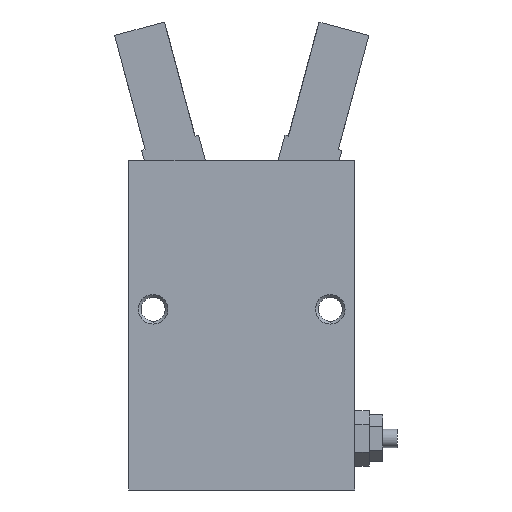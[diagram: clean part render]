
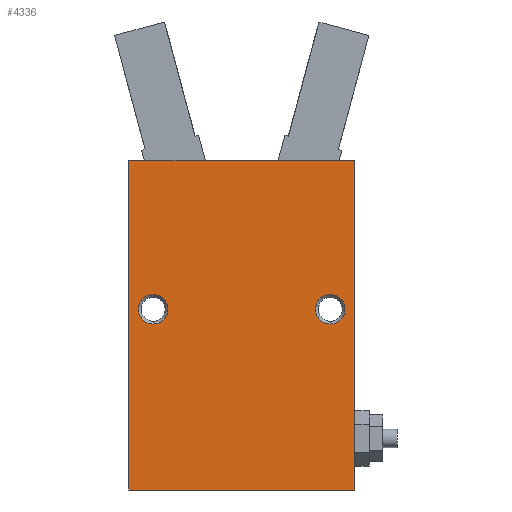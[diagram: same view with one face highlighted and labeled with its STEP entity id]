
A CAD part, front view. The second image highlights one B-rep face of the part: STEP entity #4336.
In plain terms, the highlighted planar face has unit normal (0, -1, 0).
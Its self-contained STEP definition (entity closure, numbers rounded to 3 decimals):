
#158 = CARTESIAN_POINT ( 'NONE',  ( -12., -11.8, 24.5 ) ) ;
#455 = VECTOR ( 'NONE', #5431, 1000. ) ;
#537 = AXIS2_PLACEMENT_3D ( 'NONE', #2629, #5780, #3086 ) ;
#605 = DIRECTION ( 'NONE',  ( 0., 0., -1. ) ) ;
#735 = CARTESIAN_POINT ( 'NONE',  ( 15.3, -11.8, 44.6 ) ) ;
#754 = VECTOR ( 'NONE', #5672, 1000. ) ;
#757 = CARTESIAN_POINT ( 'NONE',  ( 15.3, -11.8, 0. ) ) ;
#800 = CARTESIAN_POINT ( 'NONE',  ( -15.3, -11.8, 0. ) ) ;
#858 = EDGE_CURVE ( 'NONE', #3187, #4919, #5277, .T. ) ;
#878 = CARTESIAN_POINT ( 'NONE',  ( -15.3, -11.8, 0. ) ) ;
#888 = VERTEX_POINT ( 'NONE', #735 ) ;
#928 = CARTESIAN_POINT ( 'NONE',  ( 0., -11.8, 0. ) ) ;
#988 = EDGE_LOOP ( 'NONE', ( #3624, #2299 ) ) ;
#1060 = VERTEX_POINT ( 'NONE', #4927 ) ;
#1264 = FACE_OUTER_BOUND ( 'NONE', #4249, .T. ) ;
#1292 = AXIS2_PLACEMENT_3D ( 'NONE', #4297, #4514, #3351 ) ;
#1318 = DIRECTION ( 'NONE',  ( 0., 0., 1. ) ) ;
#1370 = EDGE_CURVE ( 'NONE', #4919, #2563, #5271, .T. ) ;
#1649 = ORIENTED_EDGE ( 'NONE', *, *, #858, .F. ) ;
#1743 = CARTESIAN_POINT ( 'NONE',  ( 12., -11.8, 24.5 ) ) ;
#1850 = CARTESIAN_POINT ( 'NONE',  ( -15.3, -11.8, 0. ) ) ;
#1851 = ORIENTED_EDGE ( 'NONE', *, *, #4402, .T. ) ;
#1861 = EDGE_CURVE ( 'NONE', #3372, #3709, #2708, .T. ) ;
#1971 = AXIS2_PLACEMENT_3D ( 'NONE', #1743, #4918, #2197 ) ;
#2197 = DIRECTION ( 'NONE',  ( 0., 0., -1. ) ) ;
#2299 = ORIENTED_EDGE ( 'NONE', *, *, #2948, .T. ) ;
#2310 = DIRECTION ( 'NONE',  ( 0., -1., 0. ) ) ;
#2322 = FACE_BOUND ( 'NONE', #2555, .T. ) ;
#2483 = EDGE_CURVE ( 'NONE', #1060, #2550, #3822, .T. ) ;
#2550 = VERTEX_POINT ( 'NONE', #4497 ) ;
#2555 = EDGE_LOOP ( 'NONE', ( #3208, #3393 ) ) ;
#2563 = VERTEX_POINT ( 'NONE', #5400 ) ;
#2629 = CARTESIAN_POINT ( 'NONE',  ( 12., -11.8, 24.5 ) ) ;
#2708 = CIRCLE ( 'NONE', #1292, 2. ) ;
#2794 = CARTESIAN_POINT ( 'NONE',  ( 0., -11.8, 44.6 ) ) ;
#2877 = VECTOR ( 'NONE', #1318, 1000. ) ;
#2948 = EDGE_CURVE ( 'NONE', #2550, #1060, #3185, .T. ) ;
#3086 = DIRECTION ( 'NONE',  ( 0., 0., -1. ) ) ;
#3185 = CIRCLE ( 'NONE', #537, 2. ) ;
#3187 = VERTEX_POINT ( 'NONE', #757 ) ;
#3208 = ORIENTED_EDGE ( 'NONE', *, *, #5187, .T. ) ;
#3230 = LINE ( 'NONE', #2794, #4289 ) ;
#3303 = DIRECTION ( 'NONE',  ( 0., 1., 0. ) ) ;
#3329 = ORIENTED_EDGE ( 'NONE', *, *, #1370, .F. ) ;
#3351 = DIRECTION ( 'NONE',  ( 0., 0., -1. ) ) ;
#3372 = VERTEX_POINT ( 'NONE', #3564 ) ;
#3393 = ORIENTED_EDGE ( 'NONE', *, *, #1861, .T. ) ;
#3515 = CARTESIAN_POINT ( 'NONE',  ( -12., -11.8, 22.5 ) ) ;
#3564 = CARTESIAN_POINT ( 'NONE',  ( -12., -11.8, 26.5 ) ) ;
#3624 = ORIENTED_EDGE ( 'NONE', *, *, #2483, .T. ) ;
#3666 = FACE_BOUND ( 'NONE', #988, .T. ) ;
#3709 = VERTEX_POINT ( 'NONE', #3515 ) ;
#3822 = CIRCLE ( 'NONE', #1971, 2. ) ;
#3933 = LINE ( 'NONE', #4000, #2877 ) ;
#4000 = CARTESIAN_POINT ( 'NONE',  ( 15.3, -11.8, 0. ) ) ;
#4079 = CIRCLE ( 'NONE', #4111, 2. ) ;
#4111 = AXIS2_PLACEMENT_3D ( 'NONE', #158, #3303, #605 ) ;
#4210 = EDGE_CURVE ( 'NONE', #3187, #888, #3933, .T. ) ;
#4249 = EDGE_LOOP ( 'NONE', ( #1649, #4627, #1851, #3329 ) ) ;
#4289 = VECTOR ( 'NONE', #5504, 1000. ) ;
#4297 = CARTESIAN_POINT ( 'NONE',  ( -12., -11.8, 24.5 ) ) ;
#4336 = ADVANCED_FACE ( 'NONE', ( #2322, #3666, #1264 ), #5030, .T. ) ;
#4402 = EDGE_CURVE ( 'NONE', #888, #2563, #3230, .T. ) ;
#4497 = CARTESIAN_POINT ( 'NONE',  ( 12., -11.8, 26.5 ) ) ;
#4514 = DIRECTION ( 'NONE',  ( 0., 1., 0. ) ) ;
#4627 = ORIENTED_EDGE ( 'NONE', *, *, #4210, .T. ) ;
#4918 = DIRECTION ( 'NONE',  ( 0., 1., 0. ) ) ;
#4919 = VERTEX_POINT ( 'NONE', #878 ) ;
#4927 = CARTESIAN_POINT ( 'NONE',  ( 12., -11.8, 22.5 ) ) ;
#5030 = PLANE ( 'NONE',  #5643 ) ;
#5187 = EDGE_CURVE ( 'NONE', #3709, #3372, #4079, .T. ) ;
#5271 = LINE ( 'NONE', #800, #455 ) ;
#5277 = LINE ( 'NONE', #928, #754 ) ;
#5400 = CARTESIAN_POINT ( 'NONE',  ( -15.3, -11.8, 44.6 ) ) ;
#5431 = DIRECTION ( 'NONE',  ( 0., 0., 1. ) ) ;
#5469 = DIRECTION ( 'NONE',  ( 1., 0., 0. ) ) ;
#5504 = DIRECTION ( 'NONE',  ( -1., 0., 0. ) ) ;
#5643 = AXIS2_PLACEMENT_3D ( 'NONE', #1850, #2310, #5469 ) ;
#5672 = DIRECTION ( 'NONE',  ( -1., 0., 0. ) ) ;
#5780 = DIRECTION ( 'NONE',  ( 0., 1., 0. ) ) ;
